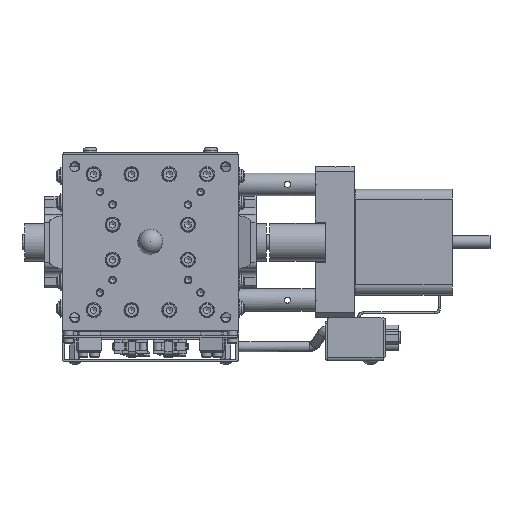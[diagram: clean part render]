
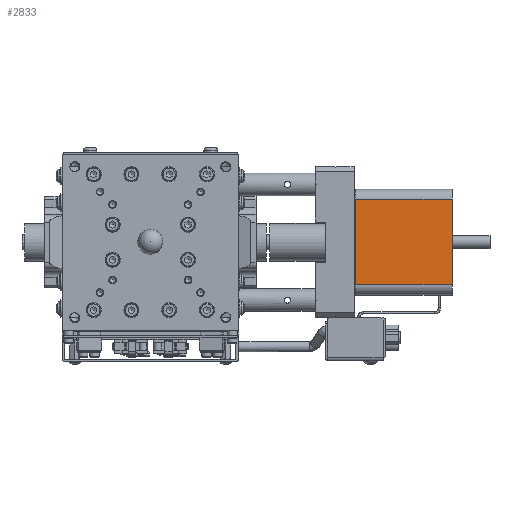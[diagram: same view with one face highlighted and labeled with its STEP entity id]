
A CAD part, top view. The second image highlights one B-rep face of the part: STEP entity #2833.
In plain terms, the highlighted planar face has unit normal (0, 0, 1).
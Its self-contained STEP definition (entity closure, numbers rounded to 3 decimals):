
#2833=ADVANCED_FACE('',(#30248),#30247,.T.);
#30247=PLANE('',#51188);
#30248=FACE_OUTER_BOUND('',#51189,.T.);
#51185=CARTESIAN_POINT('',(123.85,20.4,33.5));
#51186=DIRECTION('',(0.,0.,1.));
#51187=DIRECTION('',(-1.,0.,0.));
#51188=AXIS2_PLACEMENT_3D('',#51185,#51186,#51187);
#51189=EDGE_LOOP('',(#66564,#66565,#66566,#66567));
#66564=ORIENTED_EDGE('',*,*,#74265,.T.);
#66565=ORIENTED_EDGE('',*,*,#74278,.T.);
#66566=ORIENTED_EDGE('',*,*,#74266,.T.);
#66567=ORIENTED_EDGE('',*,*,#74239,.T.);
#74239=EDGE_CURVE('',#118210,#118211,#118212,.T.);
#74265=EDGE_CURVE('',#118211,#118381,#118388,.T.);
#74266=EDGE_CURVE('',#118394,#118210,#118395,.T.);
#74278=EDGE_CURVE('',#118381,#118394,#118467,.T.);
#118210=VERTEX_POINT('',#153569);
#118211=VERTEX_POINT('',#153570);
#118212=LINE('',#153571,#153572);
#118381=VERTEX_POINT('',#153678);
#118388=LINE('',#153683,#153684);
#118394=VERTEX_POINT('',#153686);
#118395=LINE('',#153687,#153688);
#118467=LINE('',#153724,#153725);
#153569=CARTESIAN_POINT('',(120.,-17.,33.5));
#153570=CARTESIAN_POINT('',(120.,17.,33.5));
#153571=CARTESIAN_POINT('',(120.,-17.,33.5));
#153572=VECTOR('',#153573,34.);
#153573=DIRECTION('',(0.,1.,0.));
#153678=CARTESIAN_POINT('',(81.5,17.,33.5));
#153683=CARTESIAN_POINT('',(120.,17.,33.5));
#153684=VECTOR('',#153685,38.5);
#153685=DIRECTION('',(-1.,0.,0.));
#153686=CARTESIAN_POINT('',(81.5,-17.,33.5));
#153687=CARTESIAN_POINT('',(81.5,-17.,33.5));
#153688=VECTOR('',#153689,38.5);
#153689=DIRECTION('',(1.,0.,0.));
#153724=CARTESIAN_POINT('',(81.5,17.,33.5));
#153725=VECTOR('',#153726,34.);
#153726=DIRECTION('',(0.,-1.,0.));
